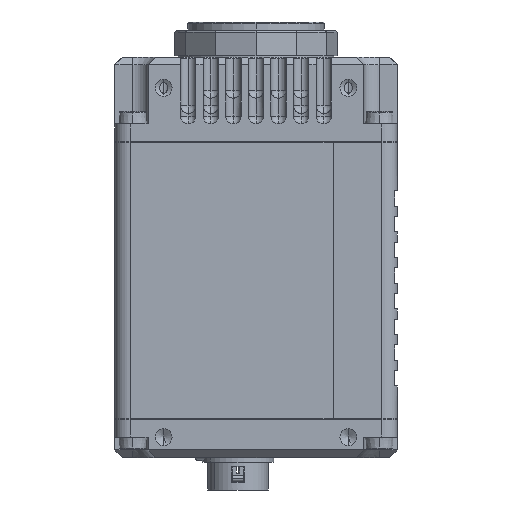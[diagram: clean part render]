
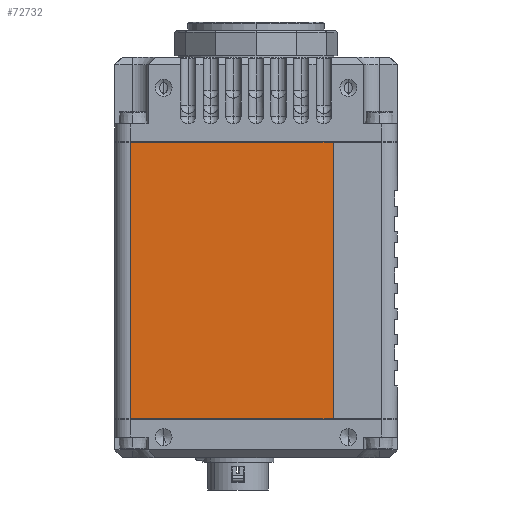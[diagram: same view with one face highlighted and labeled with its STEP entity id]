
A CAD part, left-side view. The second image highlights one B-rep face of the part: STEP entity #72732.
In plain terms, the highlighted planar face has unit normal (-1, 0, 0).
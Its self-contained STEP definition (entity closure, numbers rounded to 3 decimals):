
#2682 = CARTESIAN_POINT ( 'NONE',  ( -27.5, 24.5, -59.48 ) ) ;
#16106 = CARTESIAN_POINT ( 'NONE',  ( -27.5, 27.5, -5.58 ) ) ;
#28354 = EDGE_LOOP ( 'NONE', ( #154439, #34793, #41331, #163114 ) ) ;
#30861 = VERTEX_POINT ( 'NONE', #121218 ) ;
#34793 = ORIENTED_EDGE ( 'NONE', *, *, #130377, .T. ) ;
#35100 = CARTESIAN_POINT ( 'NONE',  ( -27.5, -15., -5.58 ) ) ;
#41331 = ORIENTED_EDGE ( 'NONE', *, *, #127396, .T. ) ;
#45535 = VERTEX_POINT ( 'NONE', #95286 ) ;
#45876 = VECTOR ( 'NONE', #56053, 1000. ) ;
#49145 = LINE ( 'NONE', #107695, #53530 ) ;
#50675 = EDGE_CURVE ( 'NONE', #30861, #45535, #179165, .T. ) ;
#51966 = CARTESIAN_POINT ( 'NONE',  ( -27.5, 27.5, -5.58 ) ) ;
#53530 = VECTOR ( 'NONE', #149084, 1000. ) ;
#56053 = DIRECTION ( 'NONE',  ( 0., -1., 0. ) ) ;
#72732 = ADVANCED_FACE ( 'NONE', ( #175269 ), #187724, .F. ) ;
#95286 = CARTESIAN_POINT ( 'NONE',  ( -27.5, -15., -59.48 ) ) ;
#107695 = CARTESIAN_POINT ( 'NONE',  ( -27.5, 24.5, -5.58 ) ) ;
#121218 = CARTESIAN_POINT ( 'NONE',  ( -27.5, -15., -5.58 ) ) ;
#127396 = EDGE_CURVE ( 'NONE', #151341, #45535, #173239, .T. ) ;
#130377 = EDGE_CURVE ( 'NONE', #137633, #151341, #49145, .T. ) ;
#133497 = DIRECTION ( 'NONE',  ( 0., -1., 0. ) ) ;
#135703 = AXIS2_PLACEMENT_3D ( 'NONE', #51966, #153779, #137494 ) ;
#137494 = DIRECTION ( 'NONE',  ( 0., 1., 0. ) ) ;
#137633 = VERTEX_POINT ( 'NONE', #177574 ) ;
#149084 = DIRECTION ( 'NONE',  ( 0., 0., -1. ) ) ;
#151341 = VERTEX_POINT ( 'NONE', #2682 ) ;
#153779 = DIRECTION ( 'NONE',  ( 1., 0., 0. ) ) ;
#154439 = ORIENTED_EDGE ( 'NONE', *, *, #170936, .F. ) ;
#156474 = VECTOR ( 'NONE', #181107, 1000. ) ;
#159448 = LINE ( 'NONE', #16106, #177994 ) ;
#163114 = ORIENTED_EDGE ( 'NONE', *, *, #50675, .F. ) ;
#170936 = EDGE_CURVE ( 'NONE', #137633, #30861, #159448, .T. ) ;
#173239 = LINE ( 'NONE', #175162, #45876 ) ;
#175162 = CARTESIAN_POINT ( 'NONE',  ( -27.5, 27.5, -59.48 ) ) ;
#175269 = FACE_OUTER_BOUND ( 'NONE', #28354, .T. ) ;
#177574 = CARTESIAN_POINT ( 'NONE',  ( -27.5, 24.5, -5.58 ) ) ;
#177994 = VECTOR ( 'NONE', #133497, 1000. ) ;
#179165 = LINE ( 'NONE', #35100, #156474 ) ;
#181107 = DIRECTION ( 'NONE',  ( 0., 0., -1. ) ) ;
#187724 = PLANE ( 'NONE',  #135703 ) ;
